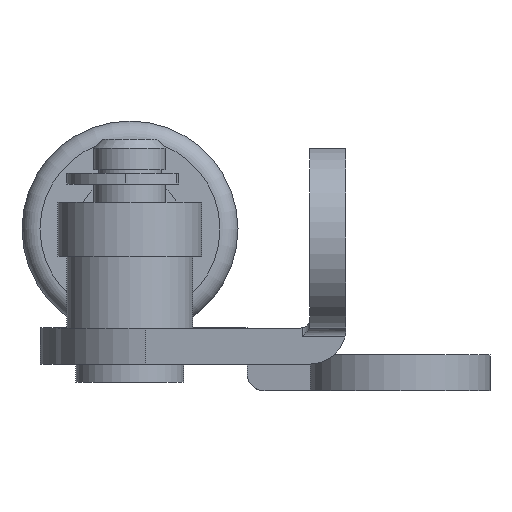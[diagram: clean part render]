
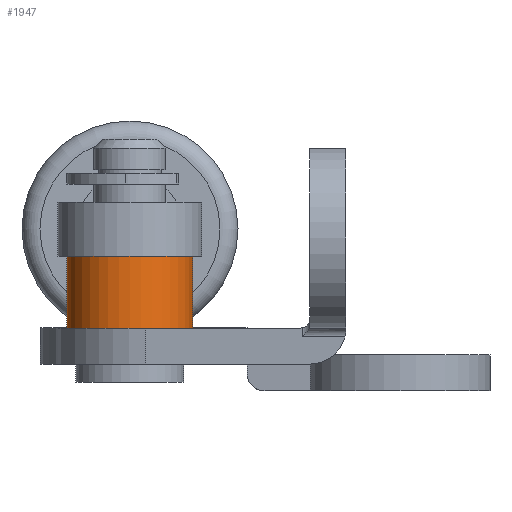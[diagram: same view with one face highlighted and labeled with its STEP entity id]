
A CAD part, left-side view. The second image highlights one B-rep face of the part: STEP entity #1947.
In plain terms, the highlighted cylindrical face has radius 3.5 mm (diameter 7 mm), a full revolution.
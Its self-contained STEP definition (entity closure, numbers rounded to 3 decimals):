
#344=CYLINDRICAL_SURFACE('',#2151,3.5);
#482=FACE_BOUND('',#739,.T.);
#569=FACE_OUTER_BOUND('',#738,.T.);
#738=EDGE_LOOP('',(#1582));
#739=EDGE_LOOP('',(#1583));
#875=CIRCLE('',#2132,3.5);
#883=CIRCLE('',#2149,3.5);
#1023=VERTEX_POINT('',#3197);
#1032=VERTEX_POINT('',#3238);
#1226=EDGE_CURVE('',#1023,#1023,#875,.T.);
#1240=EDGE_CURVE('',#1032,#1032,#883,.T.);
#1582=ORIENTED_EDGE('',*,*,#1240,.T.);
#1583=ORIENTED_EDGE('',*,*,#1226,.F.);
#1947=ADVANCED_FACE('',(#569,#482),#344,.T.);
#2132=AXIS2_PLACEMENT_3D('',#3198,#2555,#2556);
#2149=AXIS2_PLACEMENT_3D('',#3239,#2594,#2595);
#2151=AXIS2_PLACEMENT_3D('',#3242,#2598,#2599);
#2555=DIRECTION('center_axis',(0.,1.,0.));
#2556=DIRECTION('ref_axis',(0.,0.,1.));
#2594=DIRECTION('center_axis',(0.,1.,0.));
#2595=DIRECTION('ref_axis',(1.,0.,0.));
#2598=DIRECTION('center_axis',(0.,1.,0.));
#2599=DIRECTION('ref_axis',(0.,0.,1.));
#3197=CARTESIAN_POINT('',(0.,5.,15.5));
#3198=CARTESIAN_POINT('Origin',(0.,5.,12.));
#3238=CARTESIAN_POINT('',(0.,1.,15.5));
#3239=CARTESIAN_POINT('Origin',(0.,1.,12.));
#3242=CARTESIAN_POINT('Origin',(0.,3.,12.));
